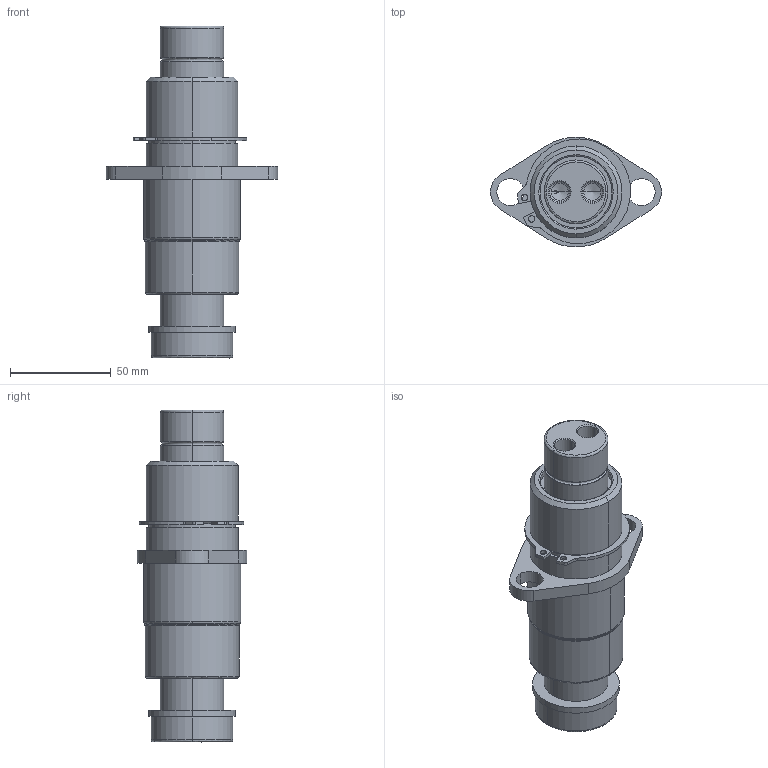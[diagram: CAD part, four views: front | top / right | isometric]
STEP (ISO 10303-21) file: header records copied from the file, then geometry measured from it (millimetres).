
FILE_DESCRIPTION (( 'STEP AP214' ), '1' );
FILE_NAME ('GK122-N4-2-TB-M-XXX.STEP', '2020-09-21T18:55:50', ( '' ), ( '' ), 'SwSTEP 2.0', 'SolidWorks 2017', '' );
FILE_SCHEMA (( 'AUTOMOTIVE_DESIGN' ));
Length unit declared in the file: inch
Products named in the file (7): GK122-DampeningWasher; GK1.25-N4-2-TB-Base; GK122-N4-2-TB-M-XXX; RetainingRing; GK122-M-XXX-GuidePin
Assembly tree (6 placements, depth 3):
  GK122-N4-2-TB-M-XXX
    GK1.25-N4-2-TB-Base
      GK1.25-N4-2-TB-Base
      RetainingRing
    GK122-M-XXX-GuidePin
      GK122-M-XXX-GuidePin
      GK122-DampeningWasher
Bounding box: 85.09 x 54.52 x 165.1 mm (x, y, z)
Volume: 238472.6 mm3; surface area: 57237.7 mm2
Topology: 4 solids, 4 shells, 125 faces, 287 edges, 174 vertices
Faces by surface type: cylinder 59, plane 24, cone 22, bspline 20
Entity records: 4434 total; most frequent: CARTESIAN_POINT 1225, DIRECTION 667, ORIENTED_EDGE 566, EDGE_CURVE 283, AXIS2_PLACEMENT_3D 278, VERTEX_POINT 174, CIRCLE 162, EDGE_LOOP 145
